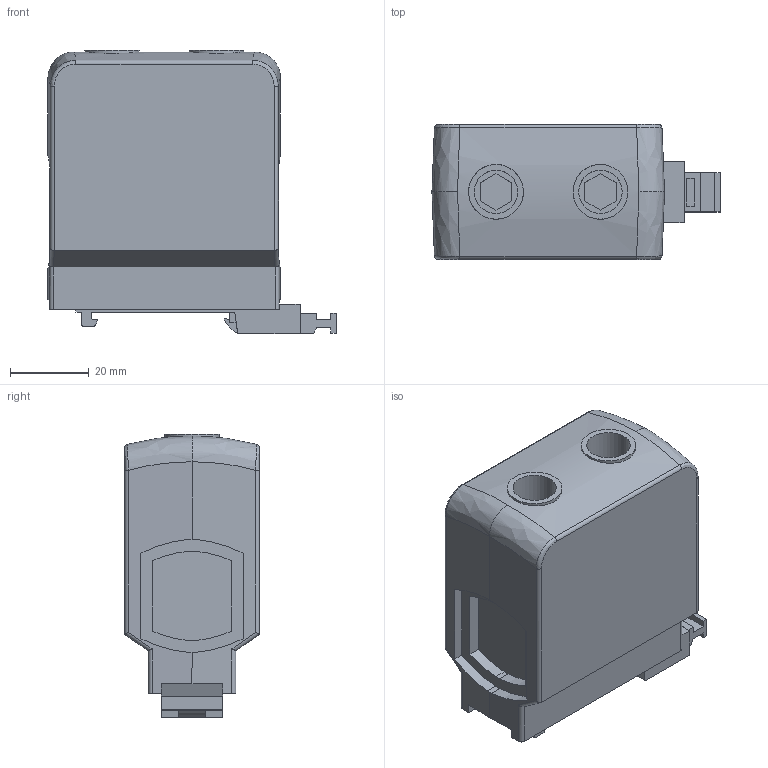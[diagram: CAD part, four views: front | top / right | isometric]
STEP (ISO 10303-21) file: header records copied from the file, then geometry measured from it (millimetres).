
FILE_DESCRIPTION(/* description */ ('Unknown'),/* implementation_level */ '2;1');
FILE_NAME(/* name */ 'UTB 150',/* time_stamp */ '2021-04-01T13:10:31+02:00',/* author */ ('Unknown'),/* organization */ ('Unknown'),/* preprocessor_version */ 'ST-DEVELOPER v16.7',/* originating_system */ 'Solid Edge',/* authorisation */ 'Unknown');
FILE_SCHEMA (('AUTOMOTIVE_DESIGN {1 0 10303 214 3 1 1}'));
Length unit declared in the file: millimetre
Products named in the file (1): UTB 150
Bounding box: 73.1 x 34.2 x 72 mm (x, y, z)
Volume: 112290.4 mm3; surface area: 18453.3 mm2
Topology: 1 solids, 1 shells, 145 faces, 382 edges, 250 vertices
Faces by surface type: plane 98, cylinder 39, bspline 8
Full cylindrical faces by diameter (mm): 11 x2, 13.9 x2
Entity records: 4602 total; most frequent: CARTESIAN_POINT 976, ORIENTED_EDGE 756, DIRECTION 724, EDGE_CURVE 378, LINE 284, VECTOR 284, VERTEX_POINT 250, AXIS2_PLACEMENT_3D 220
